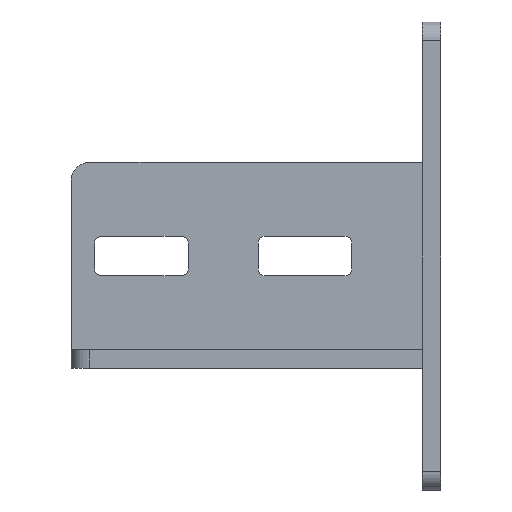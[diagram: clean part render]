
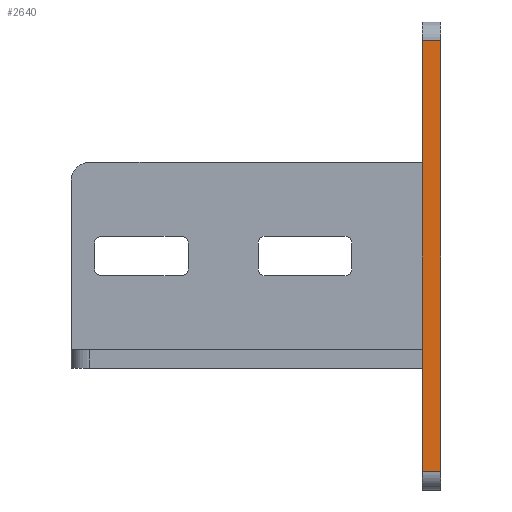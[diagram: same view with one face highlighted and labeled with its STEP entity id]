
A CAD part, left-side view. The second image highlights one B-rep face of the part: STEP entity #2640.
In plain terms, the highlighted planar face has unit normal (-1, 0, 0).
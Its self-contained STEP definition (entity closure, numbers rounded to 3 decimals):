
#48 = VECTOR ( 'NONE', #3961, 1000. ) ;
#56 = CARTESIAN_POINT ( 'NONE',  ( -32.122, 4., -27.391 ) ) ;
#79 = EDGE_CURVE ( 'NONE', #2019, #2453, #181, .T. ) ;
#181 = LINE ( 'NONE', #2375, #2509 ) ;
#345 = VECTOR ( 'NONE', #371, 1000. ) ;
#371 = DIRECTION ( 'NONE',  ( 0., -1., 0. ) ) ;
#471 = DIRECTION ( 'NONE',  ( 0., 0., 1. ) ) ;
#672 = ORIENTED_EDGE ( 'NONE', *, *, #3229, .T. ) ;
#749 = VERTEX_POINT ( 'NONE', #2078 ) ;
#1397 = CARTESIAN_POINT ( 'NONE',  ( -32.122, 4., 64.609 ) ) ;
#1660 = DIRECTION ( 'NONE',  ( 1., 0., 0. ) ) ;
#1732 = LINE ( 'NONE', #2711, #48 ) ;
#2019 = VERTEX_POINT ( 'NONE', #2198 ) ;
#2078 = CARTESIAN_POINT ( 'NONE',  ( -32.122, 0., 64.609 ) ) ;
#2131 = LINE ( 'NONE', #56, #345 ) ;
#2139 = CARTESIAN_POINT ( 'NONE',  ( -32.122, 4., 64.609 ) ) ;
#2198 = CARTESIAN_POINT ( 'NONE',  ( -32.122, 4., -27.391 ) ) ;
#2277 = ORIENTED_EDGE ( 'NONE', *, *, #3908, .F. ) ;
#2369 = LINE ( 'NONE', #1397, #4044 ) ;
#2375 = CARTESIAN_POINT ( 'NONE',  ( -32.122, 4., -27.391 ) ) ;
#2453 = VERTEX_POINT ( 'NONE', #2139 ) ;
#2486 = EDGE_LOOP ( 'NONE', ( #3397, #2277, #2928, #672 ) ) ;
#2509 = VECTOR ( 'NONE', #471, 1000. ) ;
#2617 = VERTEX_POINT ( 'NONE', #4077 ) ;
#2640 = ADVANCED_FACE ( 'NONE', ( #3177 ), #3782, .F. ) ;
#2711 = CARTESIAN_POINT ( 'NONE',  ( -32.122, 0., -27.391 ) ) ;
#2857 = EDGE_CURVE ( 'NONE', #2617, #749, #1732, .T. ) ;
#2888 = AXIS2_PLACEMENT_3D ( 'NONE', #3555, #1660, #3861 ) ;
#2928 = ORIENTED_EDGE ( 'NONE', *, *, #79, .F. ) ;
#3177 = FACE_OUTER_BOUND ( 'NONE', #2486, .T. ) ;
#3229 = EDGE_CURVE ( 'NONE', #2019, #2617, #2131, .T. ) ;
#3397 = ORIENTED_EDGE ( 'NONE', *, *, #2857, .T. ) ;
#3555 = CARTESIAN_POINT ( 'NONE',  ( -32.122, 4., -27.391 ) ) ;
#3620 = DIRECTION ( 'NONE',  ( 0., -1., 0. ) ) ;
#3782 = PLANE ( 'NONE',  #2888 ) ;
#3861 = DIRECTION ( 'NONE',  ( 0., 0., -1. ) ) ;
#3908 = EDGE_CURVE ( 'NONE', #2453, #749, #2369, .T. ) ;
#3961 = DIRECTION ( 'NONE',  ( 0., 0., 1. ) ) ;
#4044 = VECTOR ( 'NONE', #3620, 1000. ) ;
#4077 = CARTESIAN_POINT ( 'NONE',  ( -32.122, 0., -27.391 ) ) ;
